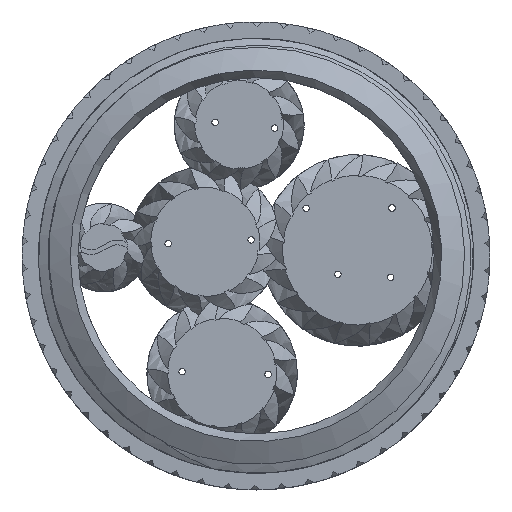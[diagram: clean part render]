
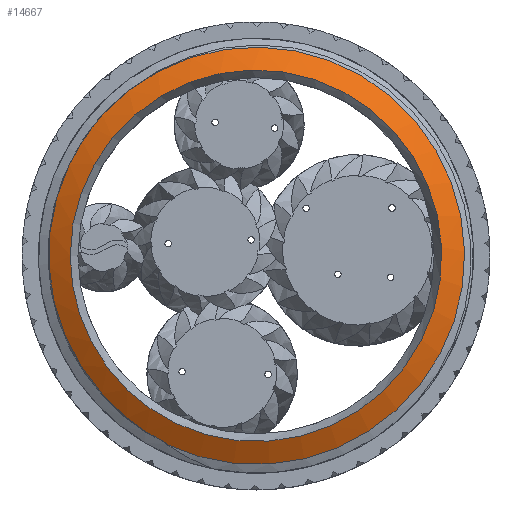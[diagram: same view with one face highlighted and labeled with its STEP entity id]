
A CAD part, top view. The second image highlights one B-rep face of the part: STEP entity #14667.
In plain terms, the highlighted conical face has half-angle 60 degrees and reference radius 31.609 mm.
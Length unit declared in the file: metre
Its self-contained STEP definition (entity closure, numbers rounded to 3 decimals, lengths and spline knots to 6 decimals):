
#1660=CIRCLE('',#15524,0.0355);
#1715=CIRCLE('',#15582,0.031609);
#5869=ORIENTED_EDGE('',*,*,#8356,.T.);
#5870=ORIENTED_EDGE('',*,*,#7830,.T.);
#5871=ORIENTED_EDGE('',*,*,#7827,.T.);
#5872=ORIENTED_EDGE('',*,*,#7834,.F.);
#5873=ORIENTED_EDGE('',*,*,#8681,.F.);
#7827=EDGE_CURVE('',#9708,#9707,#11109,.T.);
#7830=EDGE_CURVE('',#9709,#9708,#11111,.F.);
#7834=EDGE_CURVE('',#9710,#9707,#11115,.F.);
#8356=EDGE_CURVE('',#9710,#9709,#1660,.T.);
#8681=EDGE_CURVE('',#10317,#10317,#1715,.T.);
#9707=VERTEX_POINT('',#139783);
#9708=VERTEX_POINT('',#139799);
#9709=VERTEX_POINT('',#140081);
#9710=VERTEX_POINT('',#140209);
#10317=VERTEX_POINT('',#148291);
#11109=B_SPLINE_CURVE_WITH_KNOTS('',3,(#139784,#139785,#139786,#139787,
#139788,#139789,#139790,#139791,#139792,#139793,#139794,#139795,#139796,
#139797,#139798),.UNSPECIFIED.,.F.,.F.,(4,1,1,1,1,1,1,1,1,1,1,1,4),(0.062539,
0.069559,0.07658,0.083601,0.090621,
0.094132,0.097642,0.101152,0.104663,
0.108173,0.111683,0.115193,0.118704),
 .UNSPECIFIED.);
#11111=B_SPLINE_CURVE_WITH_KNOTS('',3,(#140076,#140077,#140078,#140079,
#140080),.UNSPECIFIED.,.F.,.F.,(4,1,4),(0.43739,0.442476,
0.447562),.UNSPECIFIED.);
#11115=B_SPLINE_CURVE_WITH_KNOTS('',3,(#140210,#140211,#140212,#140213),
 .UNSPECIFIED.,.F.,.F.,(4,4),(0.0075,0.007643),
 .UNSPECIFIED.);
#12642=EDGE_LOOP('',(#5869,#5870,#5871,#5872));
#12643=EDGE_LOOP('',(#5873));
#13618=FACE_BOUND('',#12642,.T.);
#13619=FACE_BOUND('',#12643,.T.);
#13922=CONICAL_SURFACE('',#15583,0.031609,1.047);
#14667=ADVANCED_FACE('',(#13618,#13619),#13922,.T.);
#15524=AXIS2_PLACEMENT_3D('',#145478,#16988,#16989);
#15582=AXIS2_PLACEMENT_3D('',#148290,#17104,#17105);
#15583=AXIS2_PLACEMENT_3D('',#148292,#17106,#17107);
#16988=DIRECTION('',(0.,0.,1.));
#16989=DIRECTION('',(-1.,0.,0.));
#17104=DIRECTION('',(0.,0.,1.));
#17105=DIRECTION('',(-1.,0.,0.));
#17106=DIRECTION('',(0.,0.,-1.));
#17107=DIRECTION('',(1.,0.,0.));
#139783=CARTESIAN_POINT('',(-0.015284,-0.031904,0.062871));
#139784=CARTESIAN_POINT('',(-0.031768,0.015565,0.062871));
#139785=CARTESIAN_POINT('',(-0.032778,0.013454,0.062884));
#139786=CARTESIAN_POINT('',(-0.03438,0.009018,0.062906));
#139787=CARTESIAN_POINT('',(-0.035436,0.00218,0.062931));
#139788=CARTESIAN_POINT('',(-0.035137,-0.004867,0.062948));
#139789=CARTESIAN_POINT('',(-0.033774,-0.010465,0.06296));
#139790=CARTESIAN_POINT('',(-0.032012,-0.014813,0.062964));
#139791=CARTESIAN_POINT('',(-0.030401,-0.01788,0.062966));
#139792=CARTESIAN_POINT('',(-0.028506,-0.020776,0.062964));
#139793=CARTESIAN_POINT('',(-0.026307,-0.023511,0.06296));
#139794=CARTESIAN_POINT('',(-0.023868,-0.026002,0.062951));
#139795=CARTESIAN_POINT('',(-0.021222,-0.028231,0.062937));
#139796=CARTESIAN_POINT('',(-0.018366,-0.030214,0.062915));
#139797=CARTESIAN_POINT('',(-0.01632,-0.031362,0.062895));
#139798=CARTESIAN_POINT('',(-0.015284,-0.031904,0.062871));
#139799=CARTESIAN_POINT('',(-0.031768,0.015565,0.062871));
#140076=CARTESIAN_POINT('',(-0.031768,0.015565,0.062871));
#140077=CARTESIAN_POINT('',(-0.031042,0.017093,0.06286));
#140078=CARTESIAN_POINT('',(-0.029354,0.020074,0.062835));
#140079=CARTESIAN_POINT('',(-0.027276,0.022754,0.062812));
#140080=CARTESIAN_POINT('',(-0.026136,0.024024,0.0628));
#140081=CARTESIAN_POINT('',(-0.026136,0.024024,0.0628));
#140209=CARTESIAN_POINT('',(-0.015338,-0.032016,0.0628));
#140210=CARTESIAN_POINT('',(-0.015284,-0.031904,0.062871));
#140211=CARTESIAN_POINT('',(-0.015302,-0.031941,0.062848));
#140212=CARTESIAN_POINT('',(-0.01532,-0.031978,0.062824));
#140213=CARTESIAN_POINT('',(-0.015338,-0.032016,0.0628));
#145478=CARTESIAN_POINT('',(0.,0.,0.0628));
#148290=CARTESIAN_POINT('',(0.,0.,0.065046));
#148291=CARTESIAN_POINT('',(-0.031609,0.,0.065046));
#148292=CARTESIAN_POINT('',(0.,0.,0.065046));
